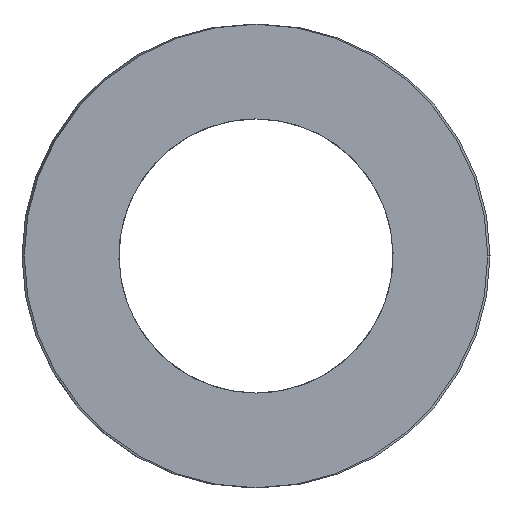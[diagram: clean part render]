
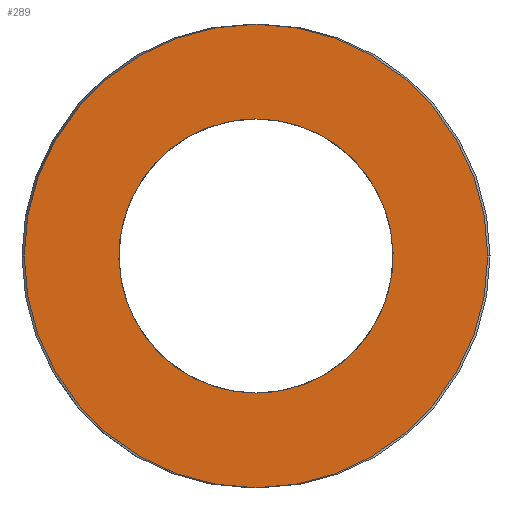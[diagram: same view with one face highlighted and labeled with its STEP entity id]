
A CAD part, left-side view. The second image highlights one B-rep face of the part: STEP entity #289.
In plain terms, the highlighted planar face has unit normal (-1, 0, 0).
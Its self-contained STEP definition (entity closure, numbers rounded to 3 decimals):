
#63=CARTESIAN_POINT('Vertex',(0.,4.65,0.)) ;
#77=CARTESIAN_POINT('Vertex',(0.,-4.65,0.)) ;
#80=CARTESIAN_POINT('Axis2P3D Location',(0.,0.,0.)) ;
#97=CARTESIAN_POINT('Axis2P3D Location',(0.,0.,0.)) ;
#226=CARTESIAN_POINT('Axis2P3D Location',(0.,2.325,0.)) ;
#236=CARTESIAN_POINT('Control Point',(0.,0.,-2.75)) ;
#237=CARTESIAN_POINT('Control Point',(0.,0.325,-2.75)) ;
#238=CARTESIAN_POINT('Control Point',(0.,0.65,-2.702)) ;
#239=CARTESIAN_POINT('Control Point',(0.,0.965,-2.606)) ;
#240=CARTESIAN_POINT('Control Point',(0.,1.559,-2.324)) ;
#241=CARTESIAN_POINT('Control Point',(0.,2.045,-1.882)) ;
#242=CARTESIAN_POINT('Control Point',(0.,2.253,-1.626)) ;
#243=CARTESIAN_POINT('Control Point',(0.,2.589,-1.061)) ;
#244=CARTESIAN_POINT('Control Point',(0.,2.747,-0.424)) ;
#245=CARTESIAN_POINT('Control Point',(0.,2.777,-0.095)) ;
#246=CARTESIAN_POINT('Control Point',(0.,2.741,0.561)) ;
#247=CARTESIAN_POINT('Control Point',(0.,2.517,1.178)) ;
#248=CARTESIAN_POINT('Control Point',(0.,2.36,1.468)) ;
#249=CARTESIAN_POINT('Control Point',(0.,1.964,1.993)) ;
#250=CARTESIAN_POINT('Control Point',(0.,1.434,2.38)) ;
#251=CARTESIAN_POINT('Control Point',(0.,1.142,2.534)) ;
#252=CARTESIAN_POINT('Control Point',(0.,0.733,2.675)) ;
#253=CARTESIAN_POINT('Control Point',(0.,0.309,2.735)) ;
#254=CARTESIAN_POINT('Control Point',(0.,0.206,2.745)) ;
#255=CARTESIAN_POINT('Control Point',(0.,0.103,2.75)) ;
#256=CARTESIAN_POINT('Control Point',(0.,0.,2.75)) ;
#257=CARTESIAN_POINT('Vertex',(0.,0.,-2.75)) ;
#259=CARTESIAN_POINT('Vertex',(0.,0.,2.75)) ;
#263=CARTESIAN_POINT('Control Point',(0.,0.,2.75)) ;
#264=CARTESIAN_POINT('Control Point',(0.,-0.325,2.75)) ;
#265=CARTESIAN_POINT('Control Point',(0.,-0.65,2.702)) ;
#266=CARTESIAN_POINT('Control Point',(0.,-0.965,2.606)) ;
#267=CARTESIAN_POINT('Control Point',(0.,-1.559,2.324)) ;
#268=CARTESIAN_POINT('Control Point',(0.,-2.045,1.882)) ;
#269=CARTESIAN_POINT('Control Point',(0.,-2.253,1.626)) ;
#270=CARTESIAN_POINT('Control Point',(0.,-2.589,1.061)) ;
#271=CARTESIAN_POINT('Control Point',(0.,-2.747,0.424)) ;
#272=CARTESIAN_POINT('Control Point',(0.,-2.777,0.095)) ;
#273=CARTESIAN_POINT('Control Point',(0.,-2.741,-0.561)) ;
#274=CARTESIAN_POINT('Control Point',(0.,-2.517,-1.178)) ;
#275=CARTESIAN_POINT('Control Point',(0.,-2.36,-1.468)) ;
#276=CARTESIAN_POINT('Control Point',(0.,-1.964,-1.993)) ;
#277=CARTESIAN_POINT('Control Point',(0.,-1.434,-2.38)) ;
#278=CARTESIAN_POINT('Control Point',(0.,-1.142,-2.534)) ;
#279=CARTESIAN_POINT('Control Point',(0.,-0.733,-2.675)) ;
#280=CARTESIAN_POINT('Control Point',(0.,-0.309,-2.735)) ;
#281=CARTESIAN_POINT('Control Point',(0.,-0.206,-2.745)) ;
#282=CARTESIAN_POINT('Control Point',(0.,-0.103,-2.75)) ;
#283=CARTESIAN_POINT('Control Point',(0.,0.,-2.75)) ;
#81=DIRECTION('Axis2P3D Direction',(1.,-0.,0.)) ;
#98=DIRECTION('Axis2P3D Direction',(1.,-0.,0.)) ;
#227=DIRECTION('Axis2P3D Direction',(-1.,0.,0.)) ;
#228=DIRECTION('Axis2P3D XDirection',(0.,1.,0.)) ;
#82=AXIS2_PLACEMENT_3D('Circle Axis2P3D',#80,#81,$) ;
#99=AXIS2_PLACEMENT_3D('Circle Axis2P3D',#97,#98,$) ;
#229=AXIS2_PLACEMENT_3D('Plane Axis2P3D',#226,#227,#228) ;
#232=ORIENTED_EDGE('',*,*,#84,.T.) ;
#233=ORIENTED_EDGE('',*,*,#101,.T.) ;
#286=ORIENTED_EDGE('',*,*,#261,.T.) ;
#287=ORIENTED_EDGE('',*,*,#284,.T.) ;
#288=FACE_BOUND('',#285,.T.) ;
#289=ADVANCED_FACE('392-B10-064',(#234,#288),#230,.T.) ;
#235=B_SPLINE_CURVE_WITH_KNOTS('',5,(#236,#237,#238,#239,#240,#241,#242,#243,#244,#245,#246,#247,#248,#249,#250,#251,#252,#253,#254,#255,#256),.UNSPECIFIED.,.F.,.U.,(6,3,3,3,3,3,6),(0.,2.298,4.596,6.893,9.191,11.489,12.217),.UNSPECIFIED.) ;
#262=B_SPLINE_CURVE_WITH_KNOTS('',5,(#263,#264,#265,#266,#267,#268,#269,#270,#271,#272,#273,#274,#275,#276,#277,#278,#279,#280,#281,#282,#283),.UNSPECIFIED.,.F.,.U.,(6,3,3,3,3,3,6),(0.,2.298,4.596,6.893,9.191,11.489,12.217),.UNSPECIFIED.) ;
#83=CIRCLE('generated circle',#82,4.65) ;
#100=CIRCLE('generated circle',#99,4.65) ;
#84=EDGE_CURVE('',#64,#78,#83,.F.) ;
#101=EDGE_CURVE('',#78,#64,#100,.F.) ;
#261=EDGE_CURVE('',#258,#260,#235,.T.) ;
#284=EDGE_CURVE('',#260,#258,#262,.T.) ;
#231=EDGE_LOOP('',(#232,#233)) ;
#285=EDGE_LOOP('',(#286,#287)) ;
#234=FACE_OUTER_BOUND('',#231,.T.) ;
#230=PLANE('Plane',#229) ;
#64=VERTEX_POINT('',#63) ;
#78=VERTEX_POINT('',#77) ;
#258=VERTEX_POINT('',#257) ;
#260=VERTEX_POINT('',#259) ;
